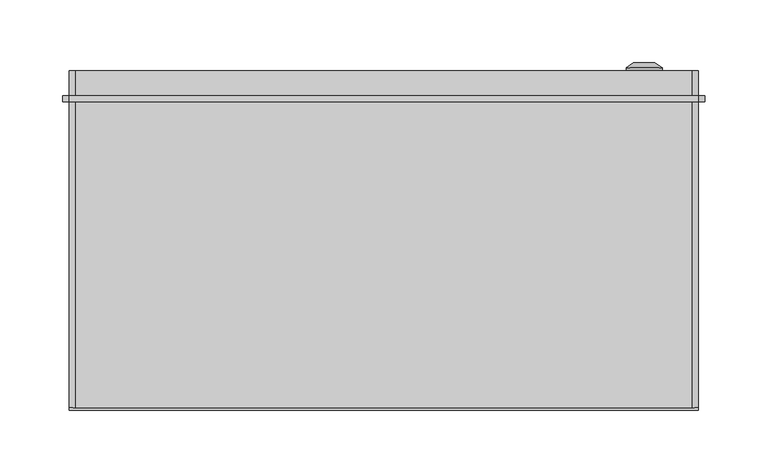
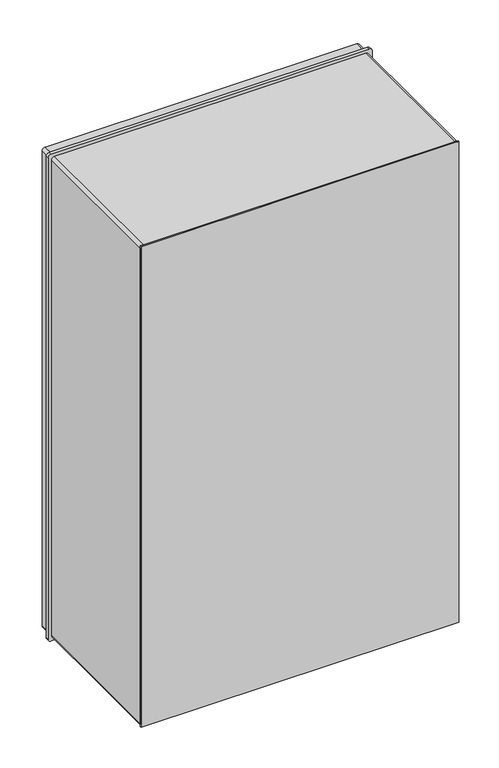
"""IFC4 building model written with IfcOpenShell, lengths in millimetres: proxy geometry, ЩПМП_IP55 : ЩПМП-4-0."""

from ifc_helpers import new_model, si_unit, point, frame, frame_2d, origin, origin_with_axes, place, context, project, spatial, polyline, circle_curve, trimmed, segment, composite_curve, outline, extrude, source, transform, mapped, element, save
from ifc_brep_helpers import plane_surface, cylinder_surface, revolved_surface, advanced_brep


def electrical_equipment_801ff232(model_context):
    return source(origin(), model_context, "Body", "SolidModel", [
        advanced_brep(
        [(192.669873, 270.0, 105.5), (221.330127, 270.0, 105.5), (207.0, 270.0, 105.5), (192.669873, 272.366592, 105.5), (221.330127, 272.366592, 105.5), (198.4845412, 276.0, 105.5), (215.5154588, 276.0, 105.5), (204.0610864, 276.0, 105.5), (209.9389136, 276.0, 105.5), (204.0610864, 274.9822294, 105.5), (209.9389136, 274.9822294, 105.5), (207.0, 274.9822294, 105.5)],
        [
            (0, 1, circle_curve(frame((207.0, 270.0, 105.5), z_axis=(0.0, -1.0, 0.0), x_axis=(1.0, 0.0, 0.0)), 14.330127)),
            (1, 2),
            (2, 0),
            (1, 0, circle_curve(frame((207.0, 270.0, 105.5), z_axis=(0.0, -1.0, 0.0), x_axis=(1.0, 0.0, 0.0)), 14.330127)),
            (3, 4, circle_curve(frame((207.0, 272.366592, 105.5), z_axis=(0.0, -1.0, 0.0), x_axis=(1.0, 0.0, 0.0)), 14.330127)),
            (4, 1),
            (0, 3),
            (4, 3, circle_curve(frame((207.0, 272.366592, 105.5), z_axis=(0.0, -1.0, 0.0), x_axis=(1.0, 0.0, 0.0)), 14.330127)),
            (5, 6, circle_curve(frame((207.0, 276.0, 105.5), z_axis=(0.0, -1.0, 0.0), x_axis=(1.0, 0.0, 0.0)), 8.5154588)),
            (6, 4),
            (3, 5),
            (6, 5, circle_curve(frame((207.0, 276.0, 105.5), z_axis=(0.0, -1.0, 0.0), x_axis=(1.0, 0.0, 0.0)), 8.5154588)),
            (7, 8, circle_curve(frame((207.0, 276.0, 105.5), z_axis=(0.0, -1.0, 0.0), x_axis=(1.0, 0.0, 0.0)), 2.9389136)),
            (8, 6),
            (5, 7),
            (8, 7, circle_curve(frame((207.0, 276.0, 105.5), z_axis=(0.0, -1.0, 0.0), x_axis=(1.0, 0.0, 0.0)), 2.9389136)),
            (9, 10, circle_curve(frame((207.0, 274.9822294, 105.5), z_axis=(0.0, -1.0, 0.0), x_axis=(1.0, 0.0, 0.0)), 2.9389136)),
            (10, 8),
            (7, 9),
            (10, 9, circle_curve(frame((207.0, 274.9822294, 105.5), z_axis=(0.0, -1.0, 0.0), x_axis=(1.0, 0.0, 0.0)), 2.9389136)),
            (11, 10),
            (9, 11),
        ],
        [
            plane_surface(frame((207.0, 270.0, 105.5), z_axis=(0.0, -1.0, 0.0), x_axis=(1.0, 0.0, 0.0))),
            cylinder_surface(frame((207.0, 283.1348851, 105.5), z_axis=(0.0, 1.0, 0.0), x_axis=(1.0, 0.0, 0.0)), 14.330127),
            revolved_surface(polyline([(221.330127, 272.366592, 105.5), (215.5154588, 276.0, 105.5)]), (207.0, 283.1348851, 105.5), (0.0, 1.0, 0.0)),
            plane_surface(frame((207.0, 276.0, 105.5), z_axis=(0.0, 1.0, 0.0), x_axis=(1.0, 0.0, 0.0))),
            revolved_surface(polyline([(209.9389136, 276.0, 105.5), (209.9389136, 274.9822294, 105.5)]), (207.0, 283.1348851, 105.5), (0.0, 1.0, 0.0)),
            plane_surface(frame((207.0, 274.9822294, 105.5), z_axis=(0.0, 1.0, 0.0), x_axis=(1.0, 0.0, 0.0))),
        ],
        [
            (0, [[1, 2, 3]]),
            (0, [[4, -3, -2]]),
            (1, [[5, 6, -1, 7]]),
            (1, [[8, -7, -4, -6]]),
            (2, [[9, 10, -5, 11]]),
            (2, [[12, -11, -8, -10]]),
            (3, [[13, 14, -9, 15]]),
            (3, [[16, -15, -12, -14]]),
            (4, [[17, 18, -13, 19]]),
            (4, [[20, -19, -16, -18]]),
            (5, [[21, -17, 22]]),
            (5, [[-22, -20, -21]]),
        ],
    ),
        advanced_brep(
        [(192.669873, 270.0, 699.5), (221.330127, 270.0, 699.5), (207.0, 270.0, 699.5), (192.669873, 272.366592, 699.5), (221.330127, 272.366592, 699.5), (198.4845412, 276.0, 699.5), (215.5154588, 276.0, 699.5), (204.0610864, 276.0, 699.5), (209.9389136, 276.0, 699.5), (204.0610864, 274.9822294, 699.5), (209.9389136, 274.9822294, 699.5), (207.0, 274.9822294, 699.5)],
        [
            (0, 1, circle_curve(frame((207.0, 270.0, 699.5), z_axis=(0.0, -1.0, 0.0), x_axis=(1.0, 0.0, 0.0)), 14.330127)),
            (1, 2),
            (2, 0),
            (1, 0, circle_curve(frame((207.0, 270.0, 699.5), z_axis=(0.0, -1.0, 0.0), x_axis=(1.0, 0.0, 0.0)), 14.330127)),
            (3, 4, circle_curve(frame((207.0, 272.366592, 699.5), z_axis=(0.0, -1.0, 0.0), x_axis=(1.0, 0.0, 0.0)), 14.330127)),
            (4, 1),
            (0, 3),
            (4, 3, circle_curve(frame((207.0, 272.366592, 699.5), z_axis=(0.0, -1.0, 0.0), x_axis=(1.0, 0.0, 0.0)), 14.330127)),
            (5, 6, circle_curve(frame((207.0, 276.0, 699.5), z_axis=(0.0, -1.0, 0.0), x_axis=(1.0, 0.0, 0.0)), 8.5154588)),
            (6, 4),
            (3, 5),
            (6, 5, circle_curve(frame((207.0, 276.0, 699.5), z_axis=(0.0, -1.0, 0.0), x_axis=(1.0, 0.0, 0.0)), 8.5154588)),
            (7, 8, circle_curve(frame((207.0, 276.0, 699.5), z_axis=(0.0, -1.0, 0.0), x_axis=(1.0, 0.0, 0.0)), 2.9389136)),
            (8, 6),
            (5, 7),
            (8, 7, circle_curve(frame((207.0, 276.0, 699.5), z_axis=(0.0, -1.0, 0.0), x_axis=(1.0, 0.0, 0.0)), 2.9389136)),
            (9, 10, circle_curve(frame((207.0, 274.9822294, 699.5), z_axis=(0.0, -1.0, 0.0), x_axis=(1.0, 0.0, 0.0)), 2.9389136)),
            (10, 8),
            (7, 9),
            (10, 9, circle_curve(frame((207.0, 274.9822294, 699.5), z_axis=(0.0, -1.0, 0.0), x_axis=(1.0, 0.0, 0.0)), 2.9389136)),
            (11, 10),
            (9, 11),
        ],
        [
            plane_surface(frame((207.0, 270.0, 699.5), z_axis=(0.0, -1.0, 0.0), x_axis=(1.0, 0.0, 0.0))),
            cylinder_surface(frame((207.0, 283.1348851, 699.5), z_axis=(0.0, 1.0, 0.0), x_axis=(1.0, 0.0, 0.0)), 14.330127),
            revolved_surface(polyline([(221.330127, 272.366592, 699.5), (215.5154588, 276.0, 699.5)]), (207.0, 283.1348851, 699.5), (0.0, 1.0, 0.0)),
            plane_surface(frame((207.0, 276.0, 699.5), z_axis=(0.0, 1.0, 0.0), x_axis=(1.0, 0.0, 0.0))),
            revolved_surface(polyline([(209.9389136, 276.0, 699.5), (209.9389136, 274.9822294, 699.5)]), (207.0, 283.1348851, 699.5), (0.0, 1.0, 0.0)),
            plane_surface(frame((207.0, 274.9822294, 699.5), z_axis=(0.0, 1.0, 0.0), x_axis=(1.0, 0.0, 0.0))),
        ],
        [
            (0, [[1, 2, 3]]),
            (0, [[4, -3, -2]]),
            (1, [[5, 6, -1, 7]]),
            (1, [[8, -7, -4, -6]]),
            (2, [[9, 10, -5, 11]]),
            (2, [[12, -11, -8, -10]]),
            (3, [[13, 14, -9, 15]]),
            (3, [[16, -15, -12, -14]]),
            (4, [[17, 18, -13, 19]]),
            (4, [[20, -19, -16, -18]]),
            (5, [[21, -17, 22]]),
            (5, [[-22, -20, -21]]),
        ],
    ),
        extrude(outline(composite_curve([segment(trimmed(circle_curve(frame_2d((800.0, -250.0)), 5.0), [point((805.0, -250.0))], [point((800.0, -255.0))], False, "CARTESIAN"), True, "CONTINUOUS"), segment(polyline([(800.0, -255.0), (0.0, -255.0)]), True, "CONTINUOUS"), segment(trimmed(circle_curve(frame_2d((0.0, -250.0)), 5.0), [point((0.0, -255.0))], [point((-5.0, -250.0))], False, "CARTESIAN"), True, "CONTINUOUS"), segment(polyline([(-5.0, -250.0), (-5.0, 250.0)]), True, "CONTINUOUS"), segment(trimmed(circle_curve(frame_2d((0.0, 250.0)), 5.0), [point((-5.0, 250.0))], [point((0.0, 255.0))], False, "CARTESIAN"), True, "CONTINUOUS"), segment(polyline([(0.0, 255.0), (800.0, 255.0)]), True, "CONTINUOUS"), segment(trimmed(circle_curve(frame_2d((800.0, 250.0)), 5.0), [point((800.0, 255.0))], [point((805.0, 250.0))], False, "CARTESIAN"), True, "CONTINUOUS"), segment(polyline([(805.0, 250.0), (805.0, -250.0)]), True, "CONTINUOUS")], self_intersect=False)), frame((0.0, 245.0, 0.0), z_axis=(0.0, 1.0, 0.0), x_axis=(0.0, 0.0, 1.0)), (0.0, 0.0, 1.0), 5.0),
        extrude(outline(composite_curve([segment(trimmed(circle_curve(frame_2d((795.0, -245.0)), 5.0), [point((800.0, -245.0))], [point((795.0, -250.0))], False, "CARTESIAN"), True, "CONTINUOUS"), segment(polyline([(795.0, -250.0), (5.0, -250.0)]), True, "CONTINUOUS"), segment(trimmed(circle_curve(frame_2d((5.0, -245.0)), 5.0), [point((5.0, -250.0))], [point((0.0, -245.0))], False, "CARTESIAN"), True, "CONTINUOUS"), segment(polyline([(0.0, -245.0), (0.0, 245.0)]), True, "CONTINUOUS"), segment(trimmed(circle_curve(frame_2d((5.0, 245.0)), 5.0), [point((0.0, 245.0))], [point((5.0, 250.0))], False, "CARTESIAN"), True, "CONTINUOUS"), segment(polyline([(5.0, 250.0), (795.0, 250.0)]), True, "CONTINUOUS"), segment(trimmed(circle_curve(frame_2d((795.0, 245.0)), 5.0), [point((795.0, 250.0))], [point((800.0, 245.0))], False, "CARTESIAN"), True, "CONTINUOUS"), segment(polyline([(800.0, 245.0), (800.0, -245.0)]), True, "CONTINUOUS")], self_intersect=False)), frame((0.0, 250.0, 0.0), z_axis=(0.0, 1.0, 0.0), x_axis=(0.0, 0.0, 1.0)), (0.0, 0.0, 1.0), 20.0),
        extrude(outline(composite_curve([segment(trimmed(circle_curve(frame_2d((795.0, -245.0033905)), 5.0), [point((800.0, -245.0033905))], [point((795.0, -250.0033905))], False, "CARTESIAN"), True, "CONTINUOUS"), segment(polyline([(795.0, -250.0033905), (5.0, -250.0033905)]), True, "CONTINUOUS"), segment(trimmed(circle_curve(frame_2d((5.0, -245.0033905)), 5.0), [point((5.0, -250.0033905))], [point((0.0, -245.0033905))], False, "CARTESIAN"), True, "CONTINUOUS"), segment(polyline([(0.0, -245.0033905), (0.0, 244.9966095)]), True, "CONTINUOUS"), segment(trimmed(circle_curve(frame_2d((5.0, 244.9966095)), 5.0), [point((0.0, 244.9966095))], [point((5.0, 249.9966095))], False, "CARTESIAN"), True, "CONTINUOUS"), segment(polyline([(5.0, 249.9966095), (795.0, 249.9966095)]), True, "CONTINUOUS"), segment(trimmed(circle_curve(frame_2d((795.0, 244.9966095)), 5.0), [point((795.0, 249.9966095))], [point((800.0, 244.9966095))], False, "CARTESIAN"), True, "CONTINUOUS"), segment(polyline([(800.0, 244.9966095), (800.0, -245.0033905)]), True, "CONTINUOUS")], self_intersect=False), holes=[polyline([(765.0, -217.0033905), (765.0, 216.9966095), (35.0, 216.9966095), (35.0, -217.0033905), (765.0, -217.0033905)])]), frame((0.0, 2.0, 0.0), z_axis=(0.0, 1.0, 0.0), x_axis=(0.0, 0.0, 1.0)), (0.0, 0.0, 1.0), 243.0),
        extrude(outline(polyline([(250.0, 0.0), (-250.0, 0.0), (-250.0, 2.0), (250.0, 2.0), (250.0, 0.0)])), origin_with_axes(), (0.0, 0.0, 1.0), 800.0),
    ])


if __name__ == "__main__":
    model = new_model("IFC4")
    model_context = context("Model", 3, world=origin())
    ifc_project = project(units=[si_unit("LENGTHUNIT", "METRE", prefix="MILLI")], contexts=[model_context])
    site = spatial("IfcSite", under=ifc_project)
    building = spatial("IfcBuilding", under=site)
    placement = place(None, origin())
    electrical_equipment_shape = electrical_equipment_801ff232(model_context)
    element("IfcBuildingElementProxy", 1, Name="ЩПМП_IP55 : ЩПМП-4-0", ObjectType="ЩПМП_IP55 : ЩПМП-4-0", at=placement, inside=building, context=model_context, shape_type="MappedRepresentation", body=[
        mapped(electrical_equipment_shape, transform((0.0, 0.0, 0.0), x_axis=(1.0, 0.0, 0.0), y_axis=(0.0, 1.0, 0.0), z_axis=(0.0, 0.0, 1.0))),
    ])
    save(model, "model.ifc")
